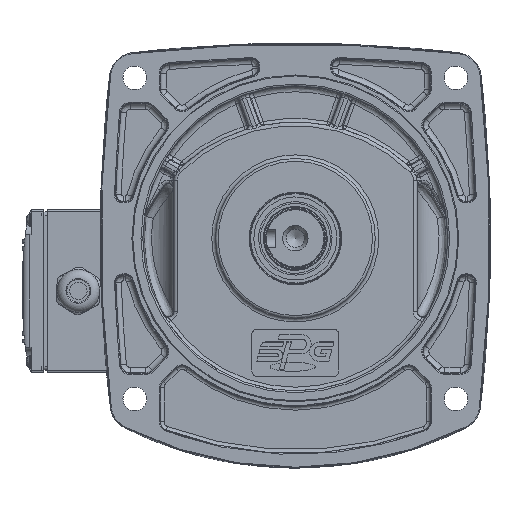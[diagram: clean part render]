
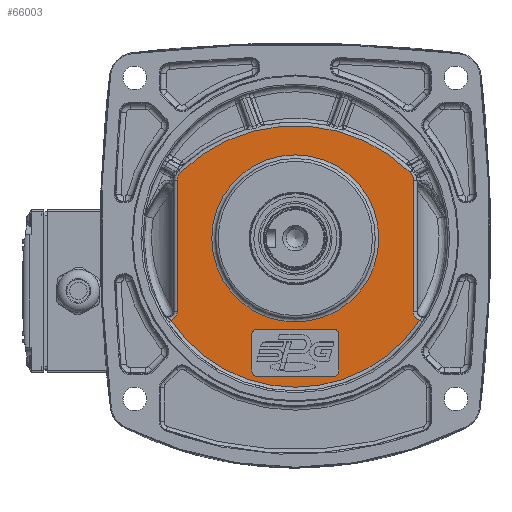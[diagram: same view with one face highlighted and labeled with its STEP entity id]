
A CAD part, top view. The second image highlights one B-rep face of the part: STEP entity #66003.
In plain terms, the highlighted planar face has unit normal (0, 0, 1).
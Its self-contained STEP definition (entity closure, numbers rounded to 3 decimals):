
#2083=LINE('',#118715,#5068);
#2084=LINE('',#118780,#5069);
#2133=LINE('',#121019,#5118);
#2134=LINE('',#121023,#5119);
#2135=LINE('',#121027,#5120);
#2136=LINE('',#121031,#5121);
#5068=VECTOR('',#82393,10.);
#5069=VECTOR('',#82402,10.);
#5118=VECTOR('',#82889,10.);
#5119=VECTOR('',#82892,10.);
#5120=VECTOR('',#82895,10.);
#5121=VECTOR('',#82898,10.);
#8004=FACE_BOUND('',#15062,.T.);
#8005=FACE_BOUND('',#15063,.T.);
#8631=PLANE('',#71441);
#10911=FACE_OUTER_BOUND('',#15061,.T.);
#15061=EDGE_LOOP('',(#48492,#48493,#48494,#48495,#48496,#48497,#48498,#48499));
#15062=EDGE_LOOP('',(#48500,#48501,#48502,#48503,#48504,#48505,#48506,#48507));
#15063=EDGE_LOOP('',(#48508));
#19147=CIRCLE('',#71234,46.);
#19230=CIRCLE('',#71367,90.551);
#19282=CIRCLE('',#71442,81.929);
#19283=CIRCLE('',#71443,3.);
#19284=CIRCLE('',#71444,3.);
#19285=CIRCLE('',#71445,3.);
#19286=CIRCLE('',#71446,3.);
#22390=B_SPLINE_CURVE_WITH_KNOTS('',3,(#118771,#118772,#118773,#118774,
#118775,#118776),.UNSPECIFIED.,.F.,.F.,(4,1,1,4),(0.,0.372,0.558,
0.621),.UNSPECIFIED.);
#22395=B_SPLINE_CURVE_WITH_KNOTS('',3,(#118920,#118921,#118922,#118923,
#118924),.UNSPECIFIED.,.F.,.F.,(4,1,4),(0.,0.205,0.478),
 .UNSPECIFIED.);
#22427=B_SPLINE_CURVE_WITH_KNOTS('',3,(#119197,#119198,#119199,#119200,
#119201),.UNSPECIFIED.,.F.,.F.,(4,1,4),(0.,0.273,0.478),
 .UNSPECIFIED.);
#22496=B_SPLINE_CURVE_WITH_KNOTS('',3,(#121012,#121013,#121014,#121015,
#121016),.UNSPECIFIED.,.F.,.F.,(4,1,4),(0.682,0.93,
1.302),.UNSPECIFIED.);
#26921=VERTEX_POINT('',#118712);
#26922=VERTEX_POINT('',#118714);
#26923=VERTEX_POINT('',#118757);
#26924=VERTEX_POINT('',#118769);
#26925=VERTEX_POINT('',#118778);
#26935=VERTEX_POINT('',#118805);
#26958=VERTEX_POINT('',#118918);
#26998=VERTEX_POINT('',#119196);
#27090=VERTEX_POINT('',#121010);
#27091=VERTEX_POINT('',#121017);
#27092=VERTEX_POINT('',#121018);
#27093=VERTEX_POINT('',#121020);
#27094=VERTEX_POINT('',#121022);
#27095=VERTEX_POINT('',#121024);
#27096=VERTEX_POINT('',#121026);
#27097=VERTEX_POINT('',#121028);
#27098=VERTEX_POINT('',#121030);
#34367=EDGE_CURVE('',#26921,#26922,#2083,.T.);
#34371=EDGE_CURVE('',#26924,#26923,#22390,.T.);
#34373=EDGE_CURVE('',#26925,#26924,#2084,.T.);
#34386=EDGE_CURVE('',#26935,#26935,#19147,.T.);
#34421=EDGE_CURVE('',#26958,#26925,#22395,.T.);
#34468=EDGE_CURVE('',#26922,#26998,#22427,.T.);
#34584=EDGE_CURVE('',#26998,#26958,#19230,.T.);
#34668=EDGE_CURVE('',#26923,#27090,#19282,.T.);
#34669=EDGE_CURVE('',#27090,#26921,#22496,.T.);
#34670=EDGE_CURVE('',#27091,#27092,#2133,.T.);
#34671=EDGE_CURVE('',#27093,#27092,#19283,.T.);
#34672=EDGE_CURVE('',#27093,#27094,#2134,.T.);
#34673=EDGE_CURVE('',#27095,#27094,#19284,.T.);
#34674=EDGE_CURVE('',#27095,#27096,#2135,.T.);
#34675=EDGE_CURVE('',#27097,#27096,#19285,.T.);
#34676=EDGE_CURVE('',#27097,#27098,#2136,.T.);
#34677=EDGE_CURVE('',#27091,#27098,#19286,.T.);
#48492=ORIENTED_EDGE('',*,*,#34668,.F.);
#48493=ORIENTED_EDGE('',*,*,#34371,.F.);
#48494=ORIENTED_EDGE('',*,*,#34373,.F.);
#48495=ORIENTED_EDGE('',*,*,#34421,.F.);
#48496=ORIENTED_EDGE('',*,*,#34584,.F.);
#48497=ORIENTED_EDGE('',*,*,#34468,.F.);
#48498=ORIENTED_EDGE('',*,*,#34367,.F.);
#48499=ORIENTED_EDGE('',*,*,#34669,.F.);
#48500=ORIENTED_EDGE('',*,*,#34670,.T.);
#48501=ORIENTED_EDGE('',*,*,#34671,.F.);
#48502=ORIENTED_EDGE('',*,*,#34672,.T.);
#48503=ORIENTED_EDGE('',*,*,#34673,.F.);
#48504=ORIENTED_EDGE('',*,*,#34674,.T.);
#48505=ORIENTED_EDGE('',*,*,#34675,.F.);
#48506=ORIENTED_EDGE('',*,*,#34676,.T.);
#48507=ORIENTED_EDGE('',*,*,#34677,.F.);
#48508=ORIENTED_EDGE('',*,*,#34386,.F.);
#66003=ADVANCED_FACE('',(#10911,#8004,#8005),#8631,.F.);
#71234=AXIS2_PLACEMENT_3D('',#118807,#82429,#82430);
#71367=AXIS2_PLACEMENT_3D('',#120165,#82730,#82731);
#71441=AXIS2_PLACEMENT_3D('',#121009,#82885,#82886);
#71442=AXIS2_PLACEMENT_3D('',#121011,#82887,#82888);
#71443=AXIS2_PLACEMENT_3D('',#121021,#82890,#82891);
#71444=AXIS2_PLACEMENT_3D('',#121025,#82893,#82894);
#71445=AXIS2_PLACEMENT_3D('',#121029,#82896,#82897);
#71446=AXIS2_PLACEMENT_3D('',#121032,#82899,#82900);
#82393=DIRECTION('',(0.,1.,0.));
#82402=DIRECTION('',(0.,-1.,0.));
#82429=DIRECTION('center_axis',(0.,0.,1.));
#82430=DIRECTION('ref_axis',(-1.,0.,0.));
#82730=DIRECTION('center_axis',(0.,0.,-1.));
#82731=DIRECTION('ref_axis',(0.,1.,0.));
#82885=DIRECTION('center_axis',(0.,0.,-1.));
#82886=DIRECTION('ref_axis',(-1.,0.,0.));
#82887=DIRECTION('center_axis',(0.,0.,-1.));
#82888=DIRECTION('ref_axis',(0.,-1.,0.));
#82889=DIRECTION('',(0.,1.,0.));
#82890=DIRECTION('center_axis',(0.,0.,1.));
#82891=DIRECTION('ref_axis',(-0.707,0.707,0.));
#82892=DIRECTION('',(1.,0.,0.));
#82893=DIRECTION('center_axis',(0.,0.,1.));
#82894=DIRECTION('ref_axis',(0.707,0.707,0.));
#82895=DIRECTION('',(0.,-1.,0.));
#82896=DIRECTION('center_axis',(0.,0.,1.));
#82897=DIRECTION('ref_axis',(0.707,-0.707,0.));
#82898=DIRECTION('',(-1.,0.,0.));
#82899=DIRECTION('center_axis',(0.,0.,1.));
#82900=DIRECTION('ref_axis',(-0.707,-0.707,0.));
#118712=CARTESIAN_POINT('',(-62.109,-11.751,67.));
#118714=CARTESIAN_POINT('',(-62.109,60.641,67.));
#118715=CARTESIAN_POINT('',(-62.109,-41.67,67.));
#118757=CARTESIAN_POINT('',(71.3,-16.503,67.));
#118769=CARTESIAN_POINT('',(67.891,-11.751,67.));
#118771=CARTESIAN_POINT('Ctrl Pts',(67.891,-11.751,
67.));
#118772=CARTESIAN_POINT('Ctrl Pts',(67.891,-12.992,
67.));
#118773=CARTESIAN_POINT('Ctrl Pts',(68.62,-14.854,
67.));
#118774=CARTESIAN_POINT('Ctrl Pts',(70.33,-16.116,
67.));
#118775=CARTESIAN_POINT('Ctrl Pts',(71.103,-16.432,
67.));
#118776=CARTESIAN_POINT('Ctrl Pts',(71.301,-16.498,
67.));
#118778=CARTESIAN_POINT('',(67.891,60.641,67.));
#118780=CARTESIAN_POINT('',(67.891,-41.67,67.));
#118805=CARTESIAN_POINT('',(48.891,28.58,67.));
#118807=CARTESIAN_POINT('Origin',(2.891,28.58,67.));
#118918=CARTESIAN_POINT('',(66.076,64.943,67.));
#118920=CARTESIAN_POINT('Ctrl Pts',(66.076,64.943,67.));
#118921=CARTESIAN_POINT('Ctrl Pts',(66.565,64.467,67.));
#118922=CARTESIAN_POINT('Ctrl Pts',(67.525,63.141,67.));
#118923=CARTESIAN_POINT('Ctrl Pts',(67.891,61.551,67.));
#118924=CARTESIAN_POINT('Ctrl Pts',(67.891,60.641,67.));
#119196=CARTESIAN_POINT('',(-60.295,64.943,67.));
#119197=CARTESIAN_POINT('Ctrl Pts',(-62.109,60.641,67.));
#119198=CARTESIAN_POINT('Ctrl Pts',(-62.109,61.551,67.));
#119199=CARTESIAN_POINT('Ctrl Pts',(-61.743,63.141,67.));
#119200=CARTESIAN_POINT('Ctrl Pts',(-60.783,64.467,
67.));
#119201=CARTESIAN_POINT('Ctrl Pts',(-60.295,64.943,
67.));
#120165=CARTESIAN_POINT('Origin',(2.891,0.08,67.));
#121009=CARTESIAN_POINT('Origin',(2.891,0.08,67.));
#121010=CARTESIAN_POINT('',(-65.518,-16.503,67.));
#121011=CARTESIAN_POINT('Origin',(2.891,28.58,67.));
#121012=CARTESIAN_POINT('Ctrl Pts',(-65.52,-16.499,
67.));
#121013=CARTESIAN_POINT('Ctrl Pts',(-64.731,-16.23,
67.));
#121014=CARTESIAN_POINT('Ctrl Pts',(-62.92,-15.07,
67.));
#121015=CARTESIAN_POINT('Ctrl Pts',(-62.109,-12.992,
67.));
#121016=CARTESIAN_POINT('Ctrl Pts',(-62.109,-11.751,
67.));
#121017=CARTESIAN_POINT('',(-21.109,-44.42,67.));
#121018=CARTESIAN_POINT('',(-21.109,-24.42,67.));
#121019=CARTESIAN_POINT('',(-21.109,-10.67,67.));
#121020=CARTESIAN_POINT('',(-18.109,-21.42,67.));
#121021=CARTESIAN_POINT('Origin',(-18.109,-24.42,67.));
#121022=CARTESIAN_POINT('',(23.891,-21.42,67.));
#121023=CARTESIAN_POINT('',(14.891,-21.42,67.));
#121024=CARTESIAN_POINT('',(26.891,-24.42,67.));
#121025=CARTESIAN_POINT('Origin',(23.891,-24.42,67.));
#121026=CARTESIAN_POINT('',(26.891,-44.42,67.));
#121027=CARTESIAN_POINT('',(26.891,-23.67,67.));
#121028=CARTESIAN_POINT('',(23.891,-47.42,67.));
#121029=CARTESIAN_POINT('Origin',(23.891,-44.42,67.));
#121030=CARTESIAN_POINT('',(-18.109,-47.42,67.));
#121031=CARTESIAN_POINT('',(-9.109,-47.42,67.));
#121032=CARTESIAN_POINT('Origin',(-18.109,-44.42,67.));
